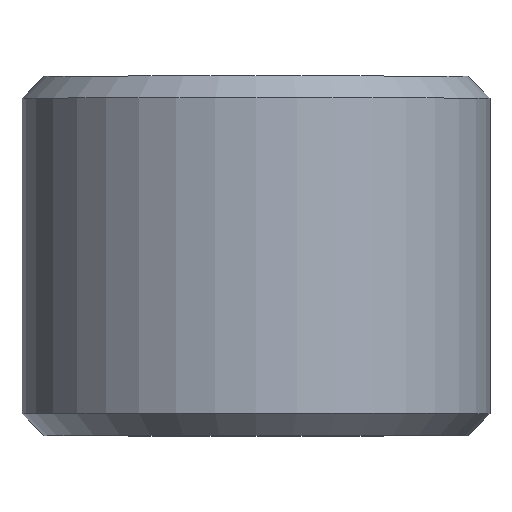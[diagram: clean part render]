
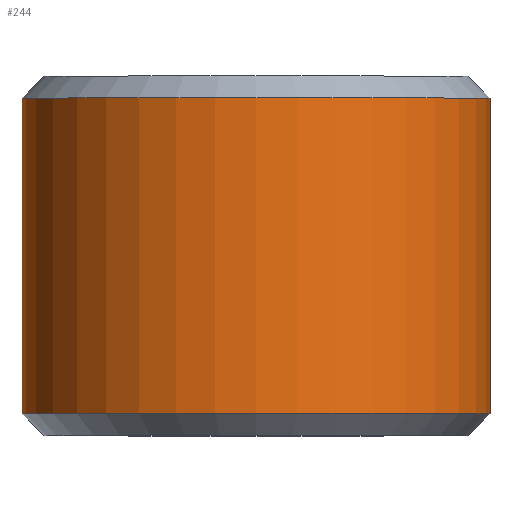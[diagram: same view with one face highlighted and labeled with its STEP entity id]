
A CAD part, top view. The second image highlights one B-rep face of the part: STEP entity #244.
In plain terms, the highlighted cylindrical face has radius 8.268 mm (diameter 16.537 mm), a full revolution.
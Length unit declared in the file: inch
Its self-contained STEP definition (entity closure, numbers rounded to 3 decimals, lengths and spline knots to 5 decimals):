
#16=CYLINDRICAL_SURFACE('',#274,0.32553);
#18=CIRCLE('',#272,0.32553);
#19=CIRCLE('',#273,0.32553);
#20=CIRCLE('',#275,0.32553);
#21=CIRCLE('',#276,0.32553);
#34=FACE_OUTER_BOUND('',#47,.T.);
#47=EDGE_LOOP('',(#193,#194,#195,#196,#197,#198));
#67=LINE('',#425,#83);
#83=VECTOR('',#321,0.335);
#117=VERTEX_POINT('',#418);
#118=VERTEX_POINT('',#420);
#119=VERTEX_POINT('',#424);
#120=VERTEX_POINT('',#426);
#149=EDGE_CURVE('',#117,#118,#18,.F.);
#150=EDGE_CURVE('',#118,#117,#19,.F.);
#151=EDGE_CURVE('',#118,#119,#67,.T.);
#152=EDGE_CURVE('',#120,#119,#20,.F.);
#153=EDGE_CURVE('',#119,#120,#21,.F.);
#193=ORIENTED_EDGE('',*,*,#150,.F.);
#194=ORIENTED_EDGE('',*,*,#151,.T.);
#195=ORIENTED_EDGE('',*,*,#152,.F.);
#196=ORIENTED_EDGE('',*,*,#153,.F.);
#197=ORIENTED_EDGE('',*,*,#151,.F.);
#198=ORIENTED_EDGE('',*,*,#149,.F.);
#244=ADVANCED_FACE('',(#34),#16,.T.);
#272=AXIS2_PLACEMENT_3D('',#421,#315,#316);
#273=AXIS2_PLACEMENT_3D('',#422,#317,#318);
#274=AXIS2_PLACEMENT_3D('',#423,#319,#320);
#275=AXIS2_PLACEMENT_3D('',#427,#322,#323);
#276=AXIS2_PLACEMENT_3D('',#428,#324,#325);
#315=DIRECTION('center_axis',(0.,1.,0.));
#316=DIRECTION('ref_axis',(0.,0.,-1.));
#317=DIRECTION('center_axis',(0.,1.,0.));
#318=DIRECTION('ref_axis',(0.,0.,-1.));
#319=DIRECTION('center_axis',(0.,-1.,0.));
#320=DIRECTION('ref_axis',(0.,0.,-1.));
#321=DIRECTION('',(0.,1.,0.));
#322=DIRECTION('center_axis',(0.,-1.,0.));
#323=DIRECTION('ref_axis',(0.,0.,-1.));
#324=DIRECTION('center_axis',(0.,-1.,0.));
#325=DIRECTION('ref_axis',(0.,0.,-1.));
#418=CARTESIAN_POINT('',(0.,0.03053,-0.32553));
#420=CARTESIAN_POINT('',(0.,0.03053,0.32553));
#421=CARTESIAN_POINT('Origin',(0.,0.03053,0.));
#422=CARTESIAN_POINT('Origin',(0.,0.03053,0.));
#423=CARTESIAN_POINT('Origin',(0.,0.25,0.));
#424=CARTESIAN_POINT('',(0.,0.46947,0.32553));
#425=CARTESIAN_POINT('',(0.,0.25,0.32553));
#426=CARTESIAN_POINT('',(0.,0.46947,-0.32553));
#427=CARTESIAN_POINT('Origin',(0.,0.46947,0.));
#428=CARTESIAN_POINT('Origin',(0.,0.46947,0.));
